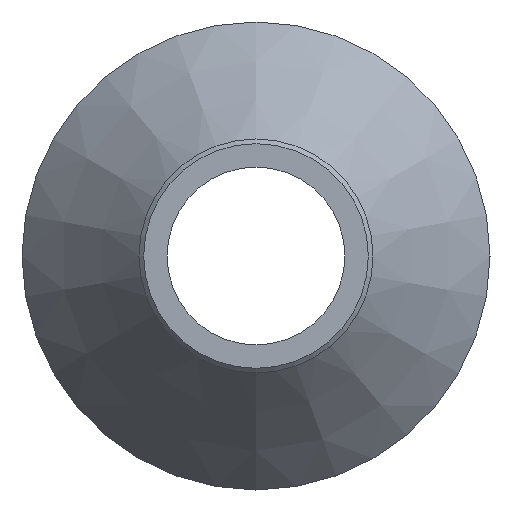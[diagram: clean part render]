
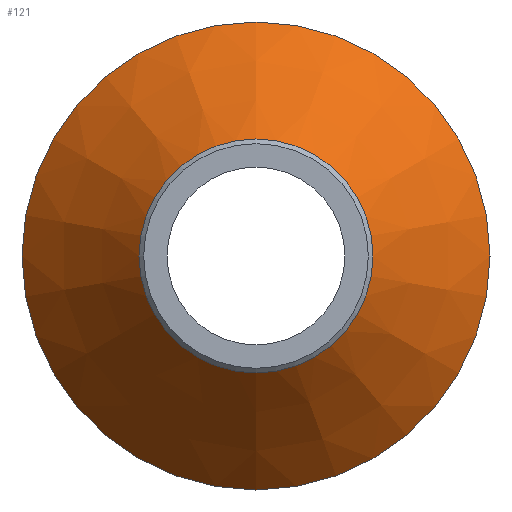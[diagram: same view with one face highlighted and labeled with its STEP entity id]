
A CAD part, left-side view. The second image highlights one B-rep face of the part: STEP entity #121.
In plain terms, the highlighted conical face has half-angle 39.806 degrees and reference radius 25 mm.
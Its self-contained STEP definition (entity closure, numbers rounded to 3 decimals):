
#22=CONICAL_SURFACE('',#146,25.,0.695);
#28=ORIENTED_EDGE('',*,*,#48,.F.);
#29=ORIENTED_EDGE('',*,*,#47,.T.);
#47=EDGE_CURVE('',#57,#57,#67,.T.);
#48=EDGE_CURVE('',#58,#58,#68,.T.);
#57=VERTEX_POINT('',#210);
#58=VERTEX_POINT('',#213);
#67=CIRCLE('',#145,25.);
#68=CIRCLE('',#147,12.5);
#78=EDGE_LOOP('',(#28));
#79=EDGE_LOOP('',(#29));
#98=FACE_BOUND('',#78,.T.);
#99=FACE_BOUND('',#79,.T.);
#121=ADVANCED_FACE('',(#98,#99),#22,.T.);
#145=AXIS2_PLACEMENT_3D('',#209,#169,#170);
#146=AXIS2_PLACEMENT_3D('',#211,#171,#172);
#147=AXIS2_PLACEMENT_3D('',#212,#173,#174);
#169=DIRECTION('',(-1.,0.,0.));
#170=DIRECTION('',(0.,0.,1.));
#171=DIRECTION('',(1.,0.,0.));
#172=DIRECTION('',(0.,0.,-1.));
#173=DIRECTION('',(-1.,0.,0.));
#174=DIRECTION('',(0.,0.,1.));
#209=CARTESIAN_POINT('',(7.5,0.,0.));
#210=CARTESIAN_POINT('',(7.5,0.,25.));
#211=CARTESIAN_POINT('',(7.5,0.,0.));
#212=CARTESIAN_POINT('',(-7.5,0.,0.));
#213=CARTESIAN_POINT('',(-7.5,0.,12.5));
